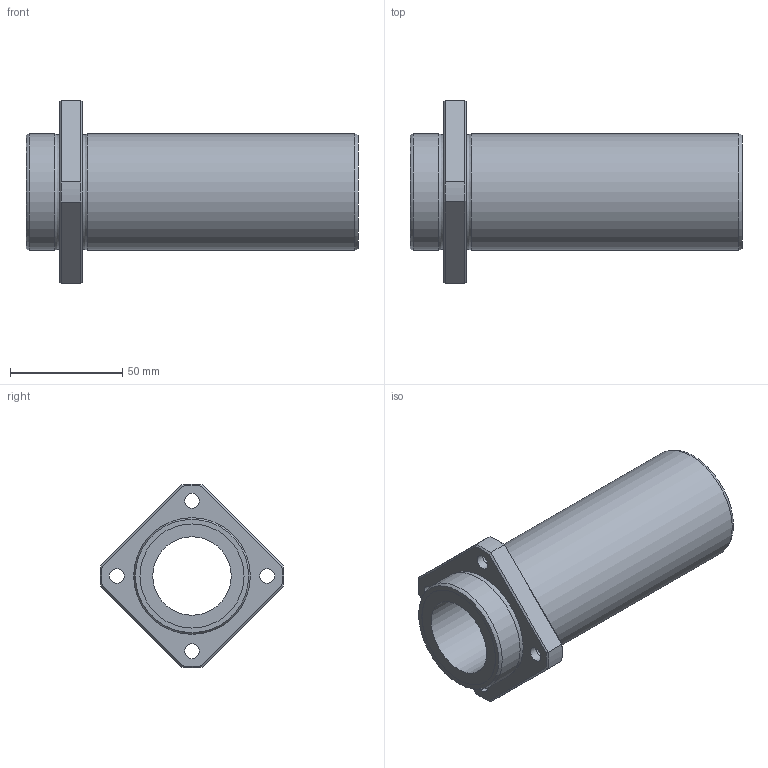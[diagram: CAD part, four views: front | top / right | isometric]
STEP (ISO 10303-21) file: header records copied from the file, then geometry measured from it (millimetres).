
FILE_DESCRIPTION((''),'2;1');
FILE_NAME('C:\Documents and Settings\土屋\My Documents\土屋移動用フォルダ\製品 (図面)\カタログ用3D\変換ファイル\OZAK_3D-CAD(STEP形式)\Part1.-Linear Bearings_ﾘﾆｱﾍﾞｱﾘﾝｸﾞ\09_Maintenance Free_ﾒｲﾝﾃﾅﾝｽﾌﾘｰ\L2017-09-21T14:32:23','2017-09-21T14:32:23',('y'),(''),'Autodesk Inventor 11','Autodesk Inventor 11','');
FILE_SCHEMA(('AUTOMOTIVE_DESIGN { 1 0 10303 214 1 1 1 1 }'));
Length unit declared in the file: millimetre
Products named in the file (1): LFDKB-MF
Bounding box: 148 x 81.94 x 81.94 mm (x, y, z)
Volume: 187250.5 mm3; surface area: 48015.5 mm2
Topology: 1 solids, 1 shells, 51 faces, 103 edges, 62 vertices
Faces by surface type: plane 18, bspline 14, cylinder 9, cone 8, torus 2
Full cylindrical faces by diameter (mm): 35 x1, 46.4 x2, 52 x2
Entity records: 1517 total; most frequent: CARTESIAN_POINT 520, DIRECTION 192, ORIENTED_EDGE 172, EDGE_CURVE 86, EDGE_LOOP 86, AXIS2_PLACEMENT_3D 84, VERTEX_POINT 62, FACE_OUTER_BOUND 51
